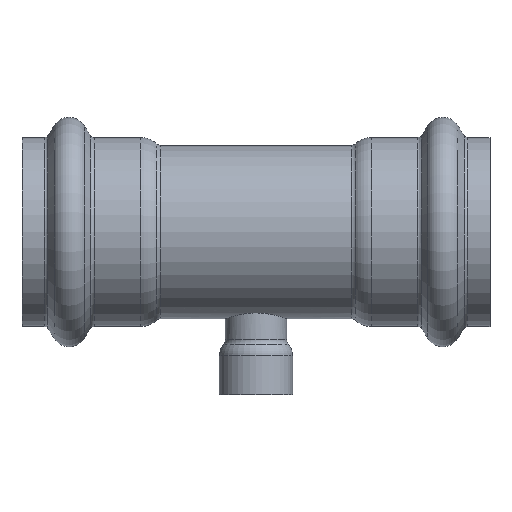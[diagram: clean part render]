
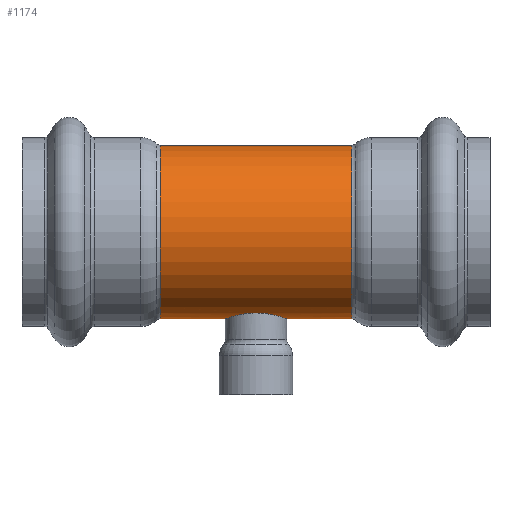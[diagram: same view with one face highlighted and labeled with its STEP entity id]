
A CAD part, top view. The second image highlights one B-rep face of the part: STEP entity #1174.
In plain terms, the highlighted cylindrical face has radius 30.163 mm (diameter 60.325 mm), a full revolution.
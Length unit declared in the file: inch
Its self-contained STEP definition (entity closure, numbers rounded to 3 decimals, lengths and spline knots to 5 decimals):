
#112=FACE_OUTER_BOUND('',#163,.T.);
#163=EDGE_LOOP('',(#924,#925,#926,#927,#928,#929,#930,#931,#932,#933,#934,
#935,#936,#937));
#270=CIRCLE('',#1329,1.1875);
#271=CIRCLE('',#1330,1.1875);
#272=CIRCLE('',#1331,1.1875);
#273=CIRCLE('',#1333,1.1875);
#274=CIRCLE('',#1334,1.1875);
#275=CIRCLE('',#1335,1.1875);
#350=LINE('',#2184,#374);
#351=LINE('',#2185,#375);
#374=VECTOR('',#1686,1.1875);
#375=VECTOR('',#1687,1.1875);
#384=B_SPLINE_CURVE_WITH_KNOTS('',3,(#1886,#1887,#1888,#1889,#1890,#1891,
#1892,#1893,#1894,#1895),.UNSPECIFIED.,.F.,.F.,(4,2,2,2,4),(0.,0.4058,
0.8116,1.21715,1.62271),.UNSPECIFIED.);
#385=B_SPLINE_CURVE_WITH_KNOTS('',3,(#1897,#1898,#1899,#1900,#1901,#1902,
#1903,#1904,#1905,#1906),.UNSPECIFIED.,.F.,.F.,(4,2,2,2,4),(4.86813,
5.27368,5.67924,6.08504,6.49084),
 .UNSPECIFIED.);
#386=B_SPLINE_CURVE_WITH_KNOTS('',3,(#1908,#1909,#1910,#1911,#1912,#1913,
#1914,#1915,#1916,#1917),.UNSPECIFIED.,.F.,.F.,(4,2,2,2,4),(3.24542,
3.65122,4.05701,4.46257,4.86813),
 .UNSPECIFIED.);
#387=B_SPLINE_CURVE_WITH_KNOTS('',3,(#1923,#1924,#1925,#1926,#1927,#1928,
#1929,#1930,#1931,#1932),.UNSPECIFIED.,.F.,.F.,(4,2,2,2,4),(1.62271,
2.02827,2.43382,2.83962,3.24542),
 .UNSPECIFIED.);
#392=VERTEX_POINT('',#1884);
#393=VERTEX_POINT('',#1885);
#394=VERTEX_POINT('',#1896);
#395=VERTEX_POINT('',#1907);
#472=VERTEX_POINT('',#2171);
#473=VERTEX_POINT('',#2173);
#474=VERTEX_POINT('',#2175);
#475=VERTEX_POINT('',#2179);
#476=VERTEX_POINT('',#2180);
#477=VERTEX_POINT('',#2182);
#528=EDGE_CURVE('',#392,#393,#384,.T.);
#529=EDGE_CURVE('',#394,#392,#385,.T.);
#530=EDGE_CURVE('',#395,#394,#386,.T.);
#534=EDGE_CURVE('',#393,#395,#387,.T.);
#636=EDGE_CURVE('',#473,#472,#270,.T.);
#637=EDGE_CURVE('',#474,#473,#271,.T.);
#638=EDGE_CURVE('',#472,#474,#272,.T.);
#639=EDGE_CURVE('',#475,#476,#273,.T.);
#640=EDGE_CURVE('',#477,#475,#274,.T.);
#641=EDGE_CURVE('',#477,#393,#350,.T.);
#642=EDGE_CURVE('',#394,#474,#351,.T.);
#643=EDGE_CURVE('',#476,#477,#275,.T.);
#924=ORIENTED_EDGE('',*,*,#639,.F.);
#925=ORIENTED_EDGE('',*,*,#640,.F.);
#926=ORIENTED_EDGE('',*,*,#641,.T.);
#927=ORIENTED_EDGE('',*,*,#534,.T.);
#928=ORIENTED_EDGE('',*,*,#530,.T.);
#929=ORIENTED_EDGE('',*,*,#642,.T.);
#930=ORIENTED_EDGE('',*,*,#637,.T.);
#931=ORIENTED_EDGE('',*,*,#636,.T.);
#932=ORIENTED_EDGE('',*,*,#638,.T.);
#933=ORIENTED_EDGE('',*,*,#642,.F.);
#934=ORIENTED_EDGE('',*,*,#529,.T.);
#935=ORIENTED_EDGE('',*,*,#528,.T.);
#936=ORIENTED_EDGE('',*,*,#641,.F.);
#937=ORIENTED_EDGE('',*,*,#643,.F.);
#1089=CYLINDRICAL_SURFACE('',#1332,1.1875);
#1174=ADVANCED_FACE('',(#112),#1089,.T.);
#1329=AXIS2_PLACEMENT_3D('',#2174,#1674,#1675);
#1330=AXIS2_PLACEMENT_3D('',#2176,#1676,#1677);
#1331=AXIS2_PLACEMENT_3D('',#2177,#1678,#1679);
#1332=AXIS2_PLACEMENT_3D('',#2178,#1680,#1681);
#1333=AXIS2_PLACEMENT_3D('',#2181,#1682,#1683);
#1334=AXIS2_PLACEMENT_3D('',#2183,#1684,#1685);
#1335=AXIS2_PLACEMENT_3D('',#2186,#1688,#1689);
#1674=DIRECTION('center_axis',(1.,0.,0.));
#1675=DIRECTION('ref_axis',(0.,1.,0.));
#1676=DIRECTION('center_axis',(1.,0.,0.));
#1677=DIRECTION('ref_axis',(0.,1.,0.));
#1678=DIRECTION('center_axis',(1.,0.,0.));
#1679=DIRECTION('ref_axis',(0.,1.,0.));
#1680=DIRECTION('center_axis',(1.,0.,0.));
#1681=DIRECTION('ref_axis',(0.,1.,0.));
#1682=DIRECTION('center_axis',(1.,0.,0.));
#1683=DIRECTION('ref_axis',(0.,1.,0.));
#1684=DIRECTION('center_axis',(1.,0.,0.));
#1685=DIRECTION('ref_axis',(0.,1.,0.));
#1686=DIRECTION('',(-1.,0.,0.));
#1687=DIRECTION('',(-1.,0.,0.));
#1688=DIRECTION('center_axis',(1.,0.,0.));
#1689=DIRECTION('ref_axis',(0.,1.,0.));
#1884=CARTESIAN_POINT('',(0.,-1.11075,0.42));
#1885=CARTESIAN_POINT('',(0.42,-1.1875,0.));
#1886=CARTESIAN_POINT('Ctrl Pts',(0.,-1.11075,
0.42));
#1887=CARTESIAN_POINT('Ctrl Pts',(0.05325,-1.11075,
0.42));
#1888=CARTESIAN_POINT('Ctrl Pts',(0.10971,-1.11498,0.40926));
#1889=CARTESIAN_POINT('Ctrl Pts',(0.21303,-1.12983,0.36627));
#1890=CARTESIAN_POINT('Ctrl Pts',(0.25994,-1.1402,0.33403));
#1891=CARTESIAN_POINT('Ctrl Pts',(0.33401,-1.15933,0.25996));
#1892=CARTESIAN_POINT('Ctrl Pts',(0.36626,-1.1694,0.21304));
#1893=CARTESIAN_POINT('Ctrl Pts',(0.40927,-1.18357,0.10969));
#1894=CARTESIAN_POINT('Ctrl Pts',(0.42,-1.1875,0.05322));
#1895=CARTESIAN_POINT('Ctrl Pts',(0.42,-1.1875,0.));
#1896=CARTESIAN_POINT('',(-0.42,-1.1875,0.));
#1897=CARTESIAN_POINT('Ctrl Pts',(-0.42,-1.1875,0.));
#1898=CARTESIAN_POINT('Ctrl Pts',(-0.42,-1.1875,0.05322));
#1899=CARTESIAN_POINT('Ctrl Pts',(-0.40927,-1.18357,0.10969));
#1900=CARTESIAN_POINT('Ctrl Pts',(-0.36626,-1.1694,
0.21304));
#1901=CARTESIAN_POINT('Ctrl Pts',(-0.33401,-1.15933,0.25996));
#1902=CARTESIAN_POINT('Ctrl Pts',(-0.25994,-1.1402,
0.33403));
#1903=CARTESIAN_POINT('Ctrl Pts',(-0.21303,-1.12983,
0.36627));
#1904=CARTESIAN_POINT('Ctrl Pts',(-0.10971,-1.11498,
0.40926));
#1905=CARTESIAN_POINT('Ctrl Pts',(-0.05325,-1.11075,
0.42));
#1906=CARTESIAN_POINT('Ctrl Pts',(0.,-1.11075,
0.42));
#1907=CARTESIAN_POINT('',(0.,-1.11075,-0.42));
#1908=CARTESIAN_POINT('Ctrl Pts',(0.,-1.11075,
-0.42));
#1909=CARTESIAN_POINT('Ctrl Pts',(-0.05325,-1.11075,
-0.42));
#1910=CARTESIAN_POINT('Ctrl Pts',(-0.10971,-1.11498,
-0.40926));
#1911=CARTESIAN_POINT('Ctrl Pts',(-0.21303,-1.12983,
-0.36627));
#1912=CARTESIAN_POINT('Ctrl Pts',(-0.25994,-1.1402,
-0.33403));
#1913=CARTESIAN_POINT('Ctrl Pts',(-0.33401,-1.15933,-0.25996));
#1914=CARTESIAN_POINT('Ctrl Pts',(-0.36626,-1.1694,
-0.21304));
#1915=CARTESIAN_POINT('Ctrl Pts',(-0.40927,-1.18357,-0.10969));
#1916=CARTESIAN_POINT('Ctrl Pts',(-0.42,-1.1875,-0.05322));
#1917=CARTESIAN_POINT('Ctrl Pts',(-0.42,-1.1875,0.));
#1923=CARTESIAN_POINT('Ctrl Pts',(0.42,-1.1875,0.));
#1924=CARTESIAN_POINT('Ctrl Pts',(0.42,-1.1875,-0.05322));
#1925=CARTESIAN_POINT('Ctrl Pts',(0.40927,-1.18357,-0.10969));
#1926=CARTESIAN_POINT('Ctrl Pts',(0.36626,-1.1694,-0.21304));
#1927=CARTESIAN_POINT('Ctrl Pts',(0.33401,-1.15933,-0.25996));
#1928=CARTESIAN_POINT('Ctrl Pts',(0.25994,-1.1402,-0.33403));
#1929=CARTESIAN_POINT('Ctrl Pts',(0.21303,-1.12983,-0.36627));
#1930=CARTESIAN_POINT('Ctrl Pts',(0.10971,-1.11498,-0.40926));
#1931=CARTESIAN_POINT('Ctrl Pts',(0.05325,-1.11075,
-0.42));
#1932=CARTESIAN_POINT('Ctrl Pts',(0.,-1.11075,
-0.42));
#2171=CARTESIAN_POINT('',(-1.31135,0.,1.1875));
#2173=CARTESIAN_POINT('',(-1.31135,1.1875,0.));
#2174=CARTESIAN_POINT('Origin',(-1.31135,0.,0.));
#2175=CARTESIAN_POINT('',(-1.31135,-1.1875,0.));
#2176=CARTESIAN_POINT('Origin',(-1.31135,0.,0.));
#2177=CARTESIAN_POINT('Origin',(-1.31135,0.,0.));
#2178=CARTESIAN_POINT('Origin',(0.65568,0.,0.));
#2179=CARTESIAN_POINT('',(1.31135,1.1875,0.));
#2180=CARTESIAN_POINT('',(1.31135,0.,1.1875));
#2181=CARTESIAN_POINT('Origin',(1.31135,0.,0.));
#2182=CARTESIAN_POINT('',(1.31135,-1.1875,0.));
#2183=CARTESIAN_POINT('Origin',(1.31135,0.,0.));
#2184=CARTESIAN_POINT('',(0.65568,-1.1875,0.));
#2185=CARTESIAN_POINT('',(0.65568,-1.1875,0.));
#2186=CARTESIAN_POINT('Origin',(1.31135,0.,0.));
